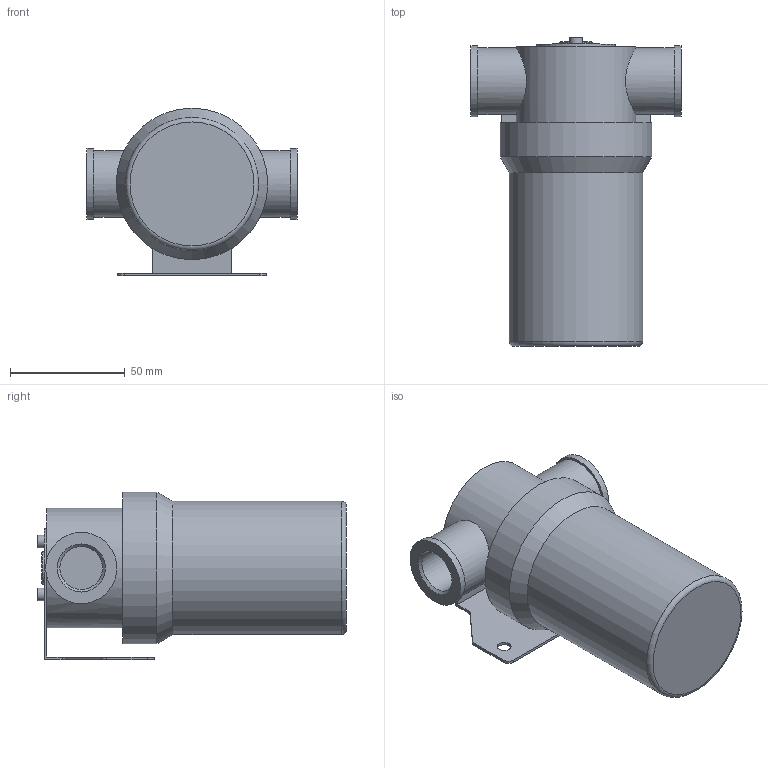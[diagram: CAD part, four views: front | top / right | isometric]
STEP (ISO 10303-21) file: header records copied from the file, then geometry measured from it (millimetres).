
FILE_DESCRIPTION(/* description */ ('STEP AP214'),/* implementation_level */ '2;1');
FILE_NAME(/* name */ 'ZFB15B',/* time_stamp */ '2025-07-25T02:15:36+02:00',/* author */ ('License CC BY-ND 4.0'),/* organization */ ('CADENAS'),/* preprocessor_version */ 'ST-DEVELOPER v19.3',/* originating_system */ 'PARTsolutions',/* authorisation */ ' ');
FILE_SCHEMA (('AUTOMOTIVE_DESIGN {1 0 10303 214 3 1 1}'));
Length unit declared in the file: millimetre
Products named in the file (1): ZFB15B
Bounding box: 91.5 x 134.5 x 73 mm (x, y, z)
Volume: 366419.8 mm3; surface area: 43016.5 mm2
Topology: 1 solids, 1 shells, 84 faces, 194 edges, 124 vertices
Faces by surface type: plane 45, cylinder 30, cone 8, torus 1
Full cylindrical faces by diameter (mm): 5.5 x2, 6 x2, 8.566 x1, 14 x1, 18.631 x2, 29 x2, 31 x2, 52 x1, 58 x1, 66 x1
Entity records: 2902 total; most frequent: CARTESIAN_POINT 427, DIRECTION 404, ORIENTED_EDGE 334, EDGE_CURVE 167, AXIS2_PLACEMENT_3D 154, EDGE_LOOP 124, FACE_BOUND 124, VERTEX_POINT 121
